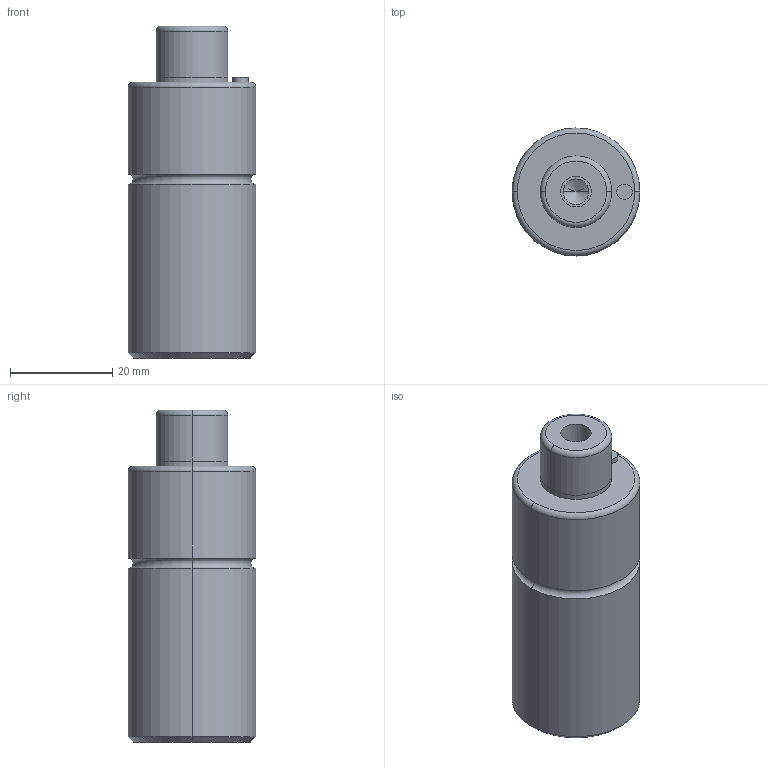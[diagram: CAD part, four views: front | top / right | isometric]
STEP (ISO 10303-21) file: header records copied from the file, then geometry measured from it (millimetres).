
FILE_DESCRIPTION(/* description */ (''),/* implementation_level */ '2;1');
FILE_NAME(/* name */ '3d_mgsa25-10_04549_r00.stp',/* time_stamp */ '2011-01-10T14:13:36+09:00',/* author */ ('MISUMI'),/* organization */ (''),/* preprocessor_version */ 'ST-DEVELOPER v11',/* originating_system */ 'UGS - NX 5.0',/* authorisation */ '');
FILE_SCHEMA (('CONFIG_CONTROL_DESIGN'));
Length unit declared in the file: millimetre
Products named in the file (1): 3d_mgsa25-10_04549_r00
Bounding box: 25 x 25 x 65 mm (x, y, z)
Volume: 27531.2 mm3; surface area: 6025.2 mm2
Topology: 1 solids, 1 shells, 36 faces, 74 edges, 42 vertices
Faces by surface type: cylinder 18, torus 6, cone 6, plane 6
Entity records: 1014 total; most frequent: DIRECTION 190, CARTESIAN_POINT 149, ORIENTED_EDGE 140, AXIS2_PLACEMENT_3D 83, EDGE_CURVE 70, CIRCLE 46, EDGE_LOOP 42, VERTEX_POINT 42
